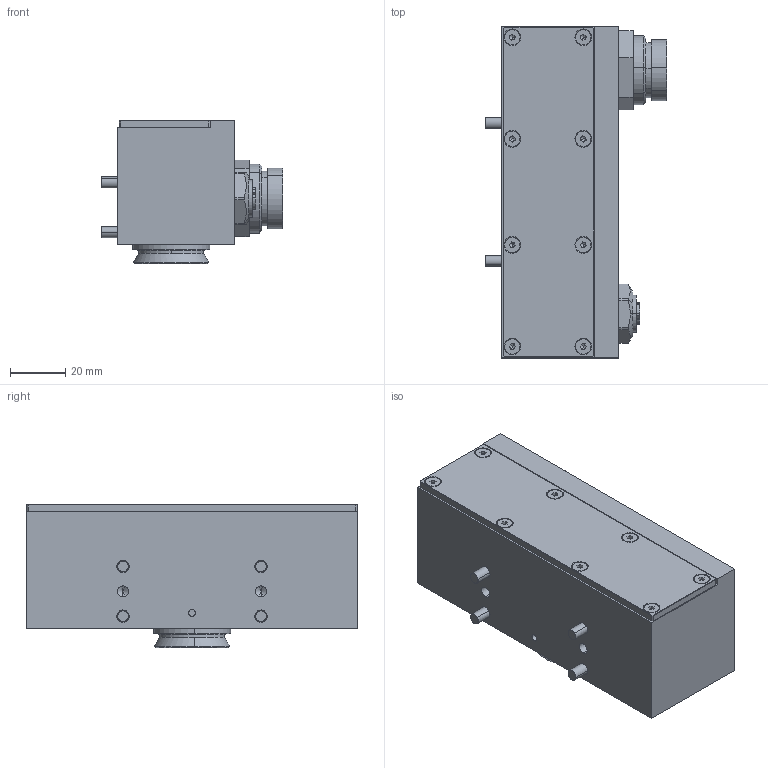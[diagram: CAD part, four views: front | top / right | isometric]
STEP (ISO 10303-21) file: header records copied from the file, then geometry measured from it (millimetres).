
FILE_DESCRIPTION(/* description */ (''),/* implementation_level */ '2;1');
FILE_NAME(/* name */ 'R.stp',/* time_stamp */ '2025-02-21T09:20:25+08:00',/* author */ (''),/* organization */ (''),/* preprocessor_version */ 'ST-DEVELOPER v16.7',/* originating_system */ 'SIEMENS PLM Software NX 12.0',/* authorisation */ '');
FILE_SCHEMA (('AUTOMOTIVE_DESIGN { 1 0 10303 214 3 1 1 1 }'));
Length unit declared in the file: millimetre
Products named in the file (1): _model69
Bounding box: 65.91 x 120.2 x 51.9 mm (x, y, z)
Volume: 273582.7 mm3; surface area: 50566.8 mm2
Topology: 19 solids, 20 shells, 1078 faces, 2510 edges, 1509 vertices
Faces by surface type: plane 567, cylinder 311, cone 164, torus 36
Full cylindrical faces by diameter (mm): 22.389 x1
Entity records: 30672 total; most frequent: CARTESIAN_POINT 6031, DIRECTION 5387, ORIENTED_EDGE 4912, EDGE_CURVE 2456, AXIS2_PLACEMENT_3D 2061, VERTEX_POINT 1508, LINE 1265, VECTOR 1265
